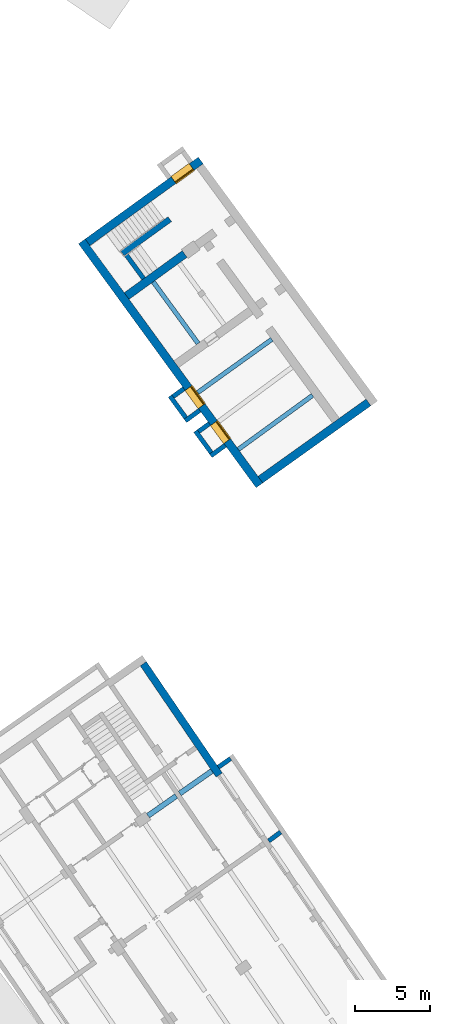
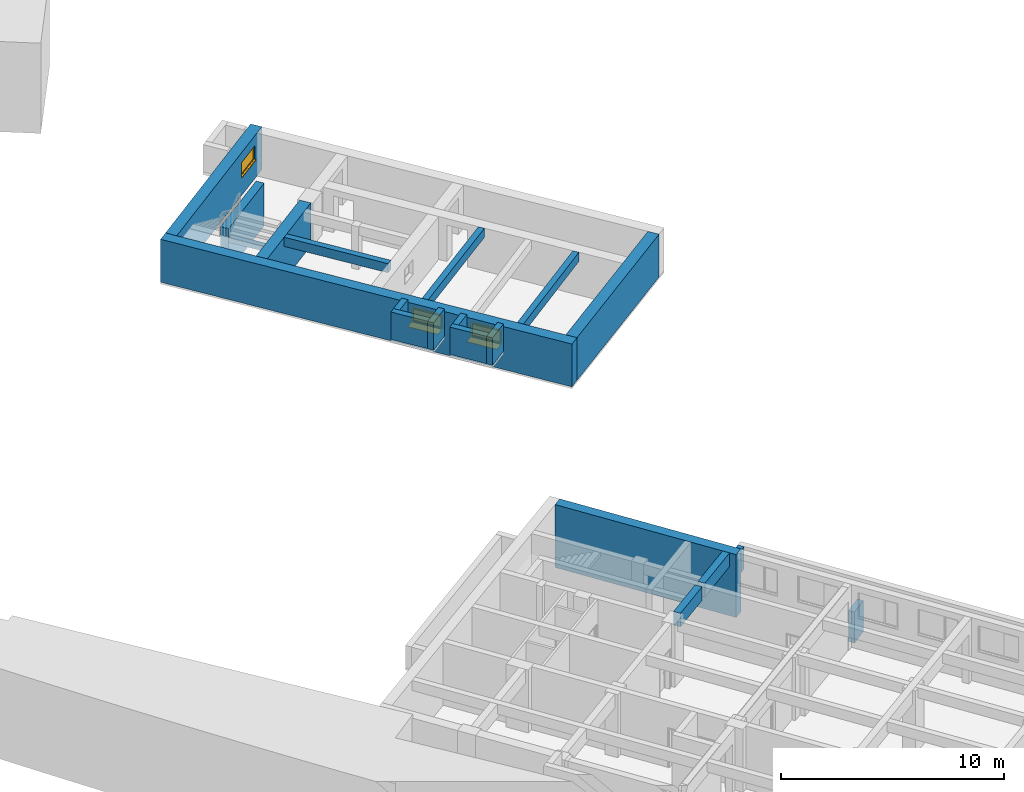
# One storey, part 75 of 112: 19 walls, 3 windows, 4 openings.
"""IFC2X3 building model written with IfcOpenShell, lengths in millimetres."""

from ifc_helpers import new_model, entity, si_unit, converted_unit, derived_unit, direction, frame, frame_2d, origin, place, context, subcontext, project, spatial, polyline, rectangle, outline, extrude, faceted_brep, source, transform, mapped, material, material_list, layer, layer_set, layer_usage, type_object, type_shapes, element, fill, save


model = new_model("IFC2X3")

# Units and contexts
model_context = context("Model", 3, precision=0.01, world=origin(), true_north=direction((6.123031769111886e-17, 1.0)))
body_context = subcontext(model_context, "Body", "Model", "MODEL_VIEW")
ifc_project = project(units=[si_unit("LENGTHUNIT", "METRE", prefix="MILLI"), si_unit("AREAUNIT", "SQUARE_METRE"), si_unit("VOLUMEUNIT", "CUBIC_METRE"), converted_unit("PLANEANGLEUNIT", "DEGREE", entity("IfcRatioMeasure", 0.017453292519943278), si_unit("PLANEANGLEUNIT", "RADIAN"), dimensions=[0, 0, 0, 0, 0, 0, 0]), si_unit("MASSUNIT", "GRAM", prefix="KILO"), derived_unit("MASSDENSITYUNIT", [(si_unit("MASSUNIT", "GRAM", prefix="KILO"), 1), (si_unit("LENGTHUNIT", "METRE"), -3)]), derived_unit("MOMENTOFINERTIAUNIT", [(si_unit("LENGTHUNIT", "METRE"), 4)]), si_unit("TIMEUNIT", "SECOND"), si_unit("FREQUENCYUNIT", "HERTZ"), si_unit("THERMODYNAMICTEMPERATUREUNIT", "DEGREE_CELSIUS"), derived_unit("THERMALTRANSMITTANCEUNIT", [(si_unit("MASSUNIT", "GRAM", prefix="KILO"), 1), (si_unit("THERMODYNAMICTEMPERATUREUNIT", "KELVIN"), -1), (si_unit("TIMEUNIT", "SECOND"), -3)]), derived_unit("THERMALCONDUCTANCEUNIT", [(si_unit("MASSUNIT", "GRAM", prefix="KILO"), 1), (si_unit("LENGTHUNIT", "METRE"), 1), (si_unit("THERMODYNAMICTEMPERATUREUNIT", "KELVIN"), -1), (si_unit("TIMEUNIT", "SECOND"), -3)]), derived_unit("VOLUMETRICFLOWRATEUNIT", [(si_unit("LENGTHUNIT", "METRE"), 3), (si_unit("TIMEUNIT", "SECOND"), -1)]), derived_unit("MASSFLOWRATEUNIT", [(si_unit("MASSUNIT", "GRAM", prefix="KILO"), 1), (si_unit("TIMEUNIT", "SECOND"), -1)]), derived_unit("ROTATIONALFREQUENCYUNIT", [(si_unit("TIMEUNIT", "SECOND"), -1)]), si_unit("ELECTRICCURRENTUNIT", "AMPERE"), si_unit("ELECTRICVOLTAGEUNIT", "VOLT"), si_unit("POWERUNIT", "WATT"), converted_unit("FORCEUNIT", "KIP", entity("IfcRatioMeasure", 2.088543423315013e-05), si_unit("FORCEUNIT", "NEWTON"), dimensions=[1, 1, -2, 0, 0, 0, 0]), si_unit("ILLUMINANCEUNIT", "LUX"), si_unit("LUMINOUSFLUXUNIT", "LUMEN"), si_unit("LUMINOUSINTENSITYUNIT", "CANDELA"), derived_unit("USERDEFINED", [(si_unit("MASSUNIT", "GRAM", prefix="KILO"), -1), (si_unit("LENGTHUNIT", "METRE"), -2), (si_unit("TIMEUNIT", "SECOND"), 3), (si_unit("LUMINOUSFLUXUNIT", "LUMEN"), 1)]), derived_unit("USERDEFINED", [(si_unit("MASSUNIT", "GRAM", prefix="KILO"), 1), (si_unit("LENGTHUNIT", "METRE"), 3), (si_unit("TIMEUNIT", "SECOND"), -3), (si_unit("ELECTRICCURRENTUNIT", "AMPERE"), -2)]), derived_unit("USERDEFINED", [(si_unit("LENGTHUNIT", "METRE"), 2), (si_unit("TIMEUNIT", "SECOND"), -2)]), derived_unit("SOUNDPOWERUNIT", [(si_unit("MASSUNIT", "GRAM", prefix="KILO"), 1), (si_unit("LENGTHUNIT", "METRE"), 2), (si_unit("TIMEUNIT", "SECOND"), -3)]), derived_unit("SOUNDPRESSUREUNIT", [(si_unit("MASSUNIT", "GRAM", prefix="KILO"), 1), (si_unit("LENGTHUNIT", "METRE"), -1), (si_unit("TIMEUNIT", "SECOND"), -2)]), derived_unit("LINEARVELOCITYUNIT", [(si_unit("LENGTHUNIT", "METRE"), 1), (si_unit("TIMEUNIT", "SECOND"), -1)]), si_unit("PRESSUREUNIT", "PASCAL"), derived_unit("USERDEFINED", [(si_unit("LENGTHUNIT", "METRE"), -2), (si_unit("MASSUNIT", "GRAM", prefix="KILO"), 1), (si_unit("TIMEUNIT", "SECOND"), -2)]), derived_unit("LINEARFORCEUNIT", [(si_unit("MASSUNIT", "GRAM", prefix="KILO"), 1), (si_unit("LENGTHUNIT", "METRE"), 1), (si_unit("TIMEUNIT", "SECOND"), -2), (si_unit("LENGTHUNIT", "METRE"), -1)]), derived_unit("PLANARFORCEUNIT", [(si_unit("MASSUNIT", "GRAM", prefix="KILO"), 1), (si_unit("LENGTHUNIT", "METRE"), 1), (si_unit("TIMEUNIT", "SECOND"), -2), (si_unit("LENGTHUNIT", "METRE"), -2)]), derived_unit("SPECIFICHEATCAPACITYUNIT", [(si_unit("LENGTHUNIT", "METRE"), 2), (si_unit("TIMEUNIT", "SECOND"), -2), (si_unit("THERMODYNAMICTEMPERATUREUNIT", "KELVIN"), -1)]), derived_unit("VAPORPERMEABILITYUNIT", [(si_unit("TIMEUNIT", "SECOND"), 1), (si_unit("LENGTHUNIT", "METRE"), -1)]), derived_unit("DYNAMICVISCOSITYUNIT", [(si_unit("MASSUNIT", "GRAM", prefix="KILO"), 1), (si_unit("LENGTHUNIT", "METRE"), -1), (si_unit("TIMEUNIT", "SECOND"), -1)]), derived_unit("THERMALEXPANSIONCOEFFICIENTUNIT", [(si_unit("THERMODYNAMICTEMPERATUREUNIT", "KELVIN"), -1)])], contexts=[model_context])

# Site, building, storey
site_placement = place(None, frame((0.0, 0.0, 0.0), z_axis=(0.0, 0.0, 1.0), x_axis=(0.8191520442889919, 0.5735764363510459, 0.0)))
site = spatial("IfcSite", under=ifc_project, at=site_placement, Name="Default", CompositionType="ELEMENT")
building_placement = place(site_placement, origin())
building = spatial("IfcBuilding", under=site, at=building_placement, CompositionType="ELEMENT")
storey_placement = place(building_placement, frame((0.0, 0.0, -3600.0)))
storey = spatial("IfcBuildingStorey", under=building, at=storey_placement, Name="0.UG -3.60", CompositionType="ELEMENT", Elevation=-3600.0000000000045)

# Walls
ifc_material_1 = material(Name="Analytical Wall Surface_CJC")
ifc_layer_1 = layer(ifc_material_1, 300.0)
ifc_layer_set_1 = layer_set([ifc_layer_1], Name="Basic Wall:Wand_Innen_30")
ifc_layer_usage_1 = layer_usage(ifc_layer_set_1, "AXIS2", "NEGATIVE", 150.0)
wall_type_1 = type_object("IfcWallType", Name="Basic Wall:Wand_Innen_30", PredefinedType="STANDARD", material=ifc_layer_set_1)
wall_1_placement = place(storey_placement, frame((-184671.19146846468, 180748.7992311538, 1800.0), z_axis=(0.0, 0.0, 1.0), x_axis=(-0.9998281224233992, -0.018539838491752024, 0.0)))
element("IfcWallStandardCase", 1, at=wall_1_placement, inside=storey, type_object=wall_type_1, material=ifc_layer_usage_1, Name="Basic Wall:Wand_Innen_30", ObjectType="Basic Wall:Wand_Innen_30", context=body_context, shape_type="SweptSolid", body=[
    extrude(rectangle(XDim=6149.947830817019, YDim=300.0000000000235, at=frame_2d((3074.9739154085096, 4.348521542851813e-12), x_axis=(-1.0, 0.0))), origin(), (0.0, 0.0, 1.0), 500.00000000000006),
])
wall_2_placement = place(storey_placement, frame((-184756.27205503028, 185390.48548292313, 1800.0), z_axis=(0.0, 0.0, 1.0), x_axis=(-0.9999261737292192, -0.012151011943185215, 0.0)))
element("IfcWallStandardCase", 2, at=wall_2_placement, inside=storey, type_object=wall_type_1, material=ifc_layer_usage_1, Name="Basic Wall:Wand_Innen_30", ObjectType="Basic Wall:Wand_Innen_30", context=body_context, shape_type="SweptSolid", body=[
    extrude(outline(polyline([(6152.021996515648, -150.0), (6150.105093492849, 150.0), (0.0, 150.0), (1.914711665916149, -150.0), (6152.021996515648, -150.0)])), origin(), (0.0, 0.0, 1.0), 500.00000000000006),
])
wall_3_placement = place(storey_placement, frame((-188956.20143930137, 187994.05491003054, 1800.0), z_axis=(0.0, 0.0, 1.0), x_axis=(-0.018532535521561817, 0.9998282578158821, 0.0)))
element("IfcWallStandardCase", 3, at=wall_3_placement, inside=storey, type_object=wall_type_1, material=ifc_layer_usage_1, Name="Basic Wall:Wand_Innen_30", ObjectType="Basic Wall:Wand_Innen_30", context=body_context, shape_type="SweptSolid", body=[
    extrude(outline(polyline([(5110.693503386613, -150.0), (5111.617669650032, 150.0), (2.0961074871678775, 150.0), (0.0, -150.0), (5110.693503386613, -150.0)])), origin(), (0.0, 0.0, 1.0), 500.00000000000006),
])
wall_4_placement = place(storey_placement, frame((-189454.39132615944, 193647.28500921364, 1550.0), z_axis=(0.0, 0.0, 1.0), x_axis=(-0.021304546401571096, 0.9997730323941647, 0.0)))
element("IfcWallStandardCase", 4, at=wall_4_placement, inside=storey, type_object=wall_type_1, material=ifc_layer_usage_1, Name="Basic Wall:Wand_Innen_30", ObjectType="Basic Wall:Wand_Innen_30", context=body_context, shape_type="SweptSolid", body=[
    extrude(outline(polyline([(2000.1886541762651, -150.0), (2001.9446061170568, 150.0), (1.755951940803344, 150.0), (0.0, -150.0), (2000.1886541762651, -150.0)])), origin(), (0.0, 0.0, 1.0), 250.00000000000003),
])

# Wall, opening
ifc_layer_2 = layer(ifc_material_1, 350.0)
ifc_layer_set_2 = layer_set([ifc_layer_2], Name="Basic Wall:Wand_Innen_35")
ifc_layer_usage_2 = layer_usage(ifc_layer_set_2, "AXIS2", "NEGATIVE", 175.0)
wall_type_2 = type_object("IfcWallType", Name="Basic Wall:Wand_Innen_35", PredefinedType="STANDARD", material=ifc_layer_set_2)
wall_5_placement = place(storey_placement, frame((-204629.72309100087, 163996.35891435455, 2700.0), z_axis=(0.0, 0.0, 1.0), x_axis=(-1.0, 0.0, 0.0)))
wall_5 = element("IfcWallStandardCase", 5, at=wall_5_placement, inside=storey, type_object=wall_type_2, material=ifc_layer_usage_2, Name="Basic Wall:Wand_Innen_35", ObjectType="Basic Wall:Wand_Innen_35", context=body_context, shape_type="SweptSolid", body=[
    extrude(outline(polyline([(0.0, -175.0), (5227.695812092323, -175.0), (5227.695812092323, 175.0), (4.455638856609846, 175.0), (0.0, -175.0)])), origin(), (0.0, 0.0, 1.0), 750.0),
])
opening_1_placement = place(storey_placement, frame((-204629.72309100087, 163996.35891435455, 2700.0), z_axis=(0.0, 0.0, 1.0), x_axis=(-1.0, 0.0, 0.0)))
element("IfcOpeningElement", 6, at=opening_1_placement, cuts=wall_5, Name="Basic Wall:Wand_Innen_35:1", ObjectType="Opening", context=body_context, shape_type="SweptSolid", body=[
    extrude(rectangle(XDim=750.0, YDim=350.02836086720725, at=frame_2d((0.0, -1.7323031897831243e-11), x_axis=(1.0, 0.0))), frame((2929.5745665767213, 0.0, 375.0), z_axis=(-0.9999189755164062, 0.01272958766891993, 0.0), x_axis=(0.0, 0.0, 1.0)), (0.0, -0.01272958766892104, 0.9999189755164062), 300.07293385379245),
])

# Walls
ifc_layer_3 = layer(ifc_material_1, 400.0)
ifc_layer_set_3 = layer_set([ifc_layer_3], Name="Basic Wall:Wand_Innen_40")
ifc_layer_usage_3 = layer_usage(ifc_layer_set_3, "AXIS2", "POSITIVE", -200.0)
wall_type_3 = type_object("IfcWallType", Name="Basic Wall:Wand_Innen_40", PredefinedType="STANDARD", material=ifc_layer_set_3)
wall_6_placement = place(storey_placement, frame((-189652.43927989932, 195845.5194992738, -50.0), z_axis=(0.0, 0.0, 1.0), x_axis=(0.9998806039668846, 0.015452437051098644, 0.0)))
element("IfcWallStandardCase", 7, at=wall_6_placement, inside=storey, type_object=wall_type_3, material=ifc_layer_usage_3, Name="Basic Wall:Wand_Innen_40", ObjectType="Basic Wall:Wand_Innen_40", context=body_context, shape_type="SweptSolid", body=[
    extrude(outline(polyline([(3917.92117840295, -200.0), (3917.9211784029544, 200.0), (0.0, 200.0), (2.341269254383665, -200.0), (3917.92117840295, -200.0)])), origin(), (0.0, 0.0, 1.0), 2350.0000000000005),
])
ifc_layer_4 = layer(ifc_material_1, 500.00000000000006)
ifc_layer_set_4 = layer_set([ifc_layer_4], Name="Basic Wall:Wand_Aussen_50")
ifc_layer_usage_4 = layer_usage(ifc_layer_set_4, "AXIS2", "NEGATIVE", 250.00000000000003)
wall_type_4 = type_object("IfcWallType", Name="Basic Wall:Wand_Aussen_50", PredefinedType="STANDARD", material=ifc_layer_set_4)
wall_7_placement = place(storey_placement, frame((-204273.36350875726, 172524.541255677, 0.0), z_axis=(0.0, 0.0, 1.0), x_axis=(-0.012729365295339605, -0.9999189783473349, 0.0)))
element("IfcWallStandardCase", 8, at=wall_7_placement, inside=storey, type_object=wall_type_4, material=ifc_layer_usage_4, Name="Basic Wall:Wand_Aussen_50", ObjectType="Basic Wall:Wand_Aussen_50", context=body_context, shape_type="SweptSolid", body=[
    extrude(outline(polyline([(9030.349084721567, -250.0), (9030.34908472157, 250.0), (0.0, 250.0), (6.365198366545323, -250.0), (6481.889262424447, -250.0), (6781.914164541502, -250.0), (9030.349084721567, -250.0)])), origin(), (0.0, 0.0, 1.0), 3450.000000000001),
])
ifc_layer_5 = layer(ifc_material_1, 550.0)
ifc_layer_set_5 = layer_set([ifc_layer_5], Name="Basic Wall:Wand_Innen_55")
ifc_layer_usage_5 = layer_usage(ifc_layer_set_5, "AXIS2", "POSITIVE", -275.0)
wall_type_5 = type_object("IfcWallType", Name="Basic Wall:Wand_Innen_55", PredefinedType="STANDARD", material=ifc_layer_set_5)
wall_8_placement = place(storey_placement, frame((-186255.22330062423, 193422.57108272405, -50.0), z_axis=(0.0, 0.0, 1.0), x_axis=(-0.999880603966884, -0.015452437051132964, 0.0)))
element("IfcWallStandardCase", 9, at=wall_8_placement, inside=storey, type_object=wall_type_5, material=ifc_layer_usage_5, Name="Basic Wall:Wand_Innen_55", ObjectType="Basic Wall:Wand_Innen_55", context=body_context, shape_type="SweptSolid", body=[
    extrude(outline(polyline([(4802.029991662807, -275.0), (4800.331669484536, 275.0), (0.0, 275.0), (0.0, -275.0), (4802.029991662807, -275.0)])), origin(), (0.0, 0.0, 1.0), 2350.0000000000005),
])
ifc_layer_6 = layer(ifc_material_1, 300.0)
ifc_layer_set_6 = layer_set([ifc_layer_6], Name="Basic Wall:Wand_Aussen_30")
ifc_layer_usage_6 = layer_usage(ifc_layer_set_6, "AXIS2", "POSITIVE", -150.0)
wall_type_6 = type_object("IfcWallType", Name="Basic Wall:Wand_Aussen_30", PredefinedType="STANDARD", material=ifc_layer_set_6)
wall_9_placement = place(storey_placement, frame((-203130.36069157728, 163961.87763083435, 1600.0), z_axis=(0.0, 0.0, 1.0), x_axis=(-1.0, 0.0, 0.0)))
element("IfcWallStandardCase", 10, at=wall_9_placement, inside=storey, type_object=wall_type_6, material=ifc_layer_usage_6, Name="Basic Wall:Wand_Aussen_30", ObjectType="Basic Wall:Wand_Aussen_30", context=body_context, shape_type="SweptSolid", body=[
    extrude(outline(polyline([(1000.0791056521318, -150.0), (1003.8982246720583, 150.0), (3.8191857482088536, 150.0), (0.0, -150.0), (1000.0791056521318, -150.0)])), origin(), (0.0, 0.0, 1.0), 1250.0),
])
wall_10_placement = place(storey_placement, frame((-203201.68663294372, 158002.9582183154, 0.0), z_axis=(0.0, 0.0, 1.0), x_axis=(-0.9995427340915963, -0.03023776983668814, 0.0)))
element("IfcWallStandardCase", 11, at=wall_10_placement, inside=storey, type_object=wall_type_6, material=ifc_layer_usage_6, Name="Basic Wall:Wand_Aussen_30", ObjectType="Basic Wall:Wand_Aussen_30", context=body_context, shape_type="SweptSolid", body=[
    extrude(outline(polyline([(1000.9221892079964, -150.0), (1013.8218368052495, 150.0), (12.899634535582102, 150.0), (0.0, -150.0), (1000.9221892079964, -150.0)])), origin(), (0.0, 0.0, 1.0), 1700.0),
])
ifc_layer_usage_7 = layer_usage(ifc_layer_set_6, "AXIS2", "NEGATIVE", 150.0)
wall_11_placement = place(storey_placement, frame((-191383.678973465, 181362.93338895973, 950.0), z_axis=(0.0, 0.0, 1.0), x_axis=(-0.9998281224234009, -0.018539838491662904, 0.0)))
element("IfcWallStandardCase", 12, at=wall_11_placement, inside=storey, type_object=wall_type_6, material=ifc_layer_usage_7, Name="Basic Wall:Wand_Aussen_30", ObjectType="Basic Wall:Wand_Aussen_30", context=body_context, shape_type="SweptSolid", body=[
    extrude(rectangle(XDim=1199.9999999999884, YDim=300.0000000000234, at=frame_2d((599.9999999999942, -9.521272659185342e-13), x_axis=(-1.0, 0.0))), origin(), (0.0, 0.0, 1.0), 1500.0),
])
wall_12_placement = place(storey_placement, frame((-192436.2794777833, 181493.44077690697, 950.0), z_axis=(0.0, 0.0, 1.0), x_axis=(-0.018539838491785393, 0.9998281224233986, 0.0)))
element("IfcWallStandardCase", 13, at=wall_12_placement, inside=storey, type_object=wall_type_6, material=ifc_layer_usage_7, Name="Basic Wall:Wand_Aussen_30", ObjectType="Basic Wall:Wand_Aussen_30", context=body_context, shape_type="SweptSolid", body=[
    extrude(outline(polyline([(1800.212422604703, -150.0), (1800.0, 150.0), (0.0, 150.0), (0.0, -150.0), (1500.2123473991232, -150.0), (1800.212422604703, -150.0)])), origin(), (0.0, 0.0, 1.0), 1500.0),
])
wall_13_placement = place(storey_placement, frame((-192317.00612214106, 183146.1484588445, 950.0), z_axis=(0.0, 0.0, 1.0), x_axis=(0.9998147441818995, 0.019247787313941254, 0.0)))
element("IfcWallStandardCase", 14, at=wall_13_placement, inside=storey, type_object=wall_type_6, material=ifc_layer_usage_7, Name="Basic Wall:Wand_Aussen_30", ObjectType="Basic Wall:Wand_Aussen_30", context=body_context, shape_type="SweptSolid", body=[
    extrude(outline(polyline([(900.000225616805, -150.0), (900.2126482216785, 150.0), (0.2124226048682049, 150.0), (0.0, -150.0), (900.000225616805, -150.0)])), origin(), (0.0, 0.0, 1.0), 1500.0),
])
wall_14_placement = place(storey_placement, frame((-191437.33831416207, 184262.4370259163, 950.0), z_axis=(0.0, 0.0, 1.0), x_axis=(-0.9998147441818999, -0.019247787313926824, 0.0)))
element("IfcWallStandardCase", 15, at=wall_14_placement, inside=storey, type_object=wall_type_6, material=ifc_layer_usage_7, Name="Basic Wall:Wand_Aussen_30", ObjectType="Basic Wall:Wand_Aussen_30", context=body_context, shape_type="SweptSolid", body=[
    extrude(outline(polyline([(1200.0003008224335, -150.0), (1200.2127234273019, 150.0), (0.21242260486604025, 150.0), (0.0, -150.0), (900.0002256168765, -150.0), (1200.0003008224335, -150.0)])), origin(), (0.0, 0.0, 1.0), 1500.0),
])
wall_15_placement = place(storey_placement, frame((-192490.0292576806, 184392.0928627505, 950.0), z_axis=(0.0, 0.0, 1.0), x_axis=(-0.018539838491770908, 0.9998281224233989, 0.0)))
element("IfcWallStandardCase", 16, at=wall_15_placement, inside=storey, type_object=wall_type_6, material=ifc_layer_usage_7, Name="Basic Wall:Wand_Aussen_30", ObjectType="Basic Wall:Wand_Aussen_30", context=body_context, shape_type="SweptSolid", body=[
    extrude(outline(polyline([(1800.8496152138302, -150.0), (1800.8496152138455, 150.0), (0.0, 150.0), (0.21242260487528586, -150.0), (1500.8496152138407, -150.0), (1800.8496152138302, -150.0)])), origin(), (0.0, 0.0, 1.0), 1500.0),
])
wall_16_placement = place(storey_placement, frame((-192370.6615245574, 186045.43970970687, 950.0), z_axis=(0.0, 0.0, 1.0), x_axis=(0.9998281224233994, 0.018539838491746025, 0.0)))
element("IfcWallStandardCase", 17, at=wall_16_placement, inside=storey, type_object=wall_type_6, material=ifc_layer_usage_7, Name="Basic Wall:Wand_Aussen_30", ObjectType="Basic Wall:Wand_Aussen_30", context=body_context, shape_type="SweptSolid", body=[
    extrude(rectangle(XDim=900.0000000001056, YDim=300.0000000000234, at=frame_2d((450.0000000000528, 4.149569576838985e-12), x_axis=(-1.0, 0.0))), origin(), (0.0, 0.0, 1.0), 1500.0),
])

# Wall, openings, windows
ifc_layer_7 = layer(ifc_material_1, 550.0)
ifc_layer_set_7 = layer_set([ifc_layer_7], Name="Basic Wall:Wand_Aussen_55")
ifc_layer_usage_8 = layer_usage(ifc_layer_set_7, "AXIS2", "NEGATIVE", 275.0)
wall_type_7 = type_object("IfcWallType", Name="Basic Wall:Wand_Aussen_55", PredefinedType="STANDARD", material=ifc_layer_set_7)
wall_17_placement = place(storey_placement, frame((-191043.44477752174, 177847.49190638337, -50.0), z_axis=(0.0, 0.0, 1.0), x_axis=(-0.018539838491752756, 0.9998281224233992, 0.0)))
wall_17 = element("IfcWallStandardCase", 18, at=wall_17_placement, inside=storey, type_object=wall_type_7, material=ifc_layer_usage_8, Name="Basic Wall:Wand_Aussen_55", ObjectType="Basic Wall:Wand_Aussen_55", context=body_context, shape_type="SweptSolid", body=[
    extrude(outline(polyline([(20223.47713909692, -275.0), (20225.175461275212, 275.0), (5.055850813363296, 275.0), (0.0, -275.0), (550.0232373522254, -275.0), (9571.14514405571, -275.0), (10121.158597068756, -275.0), (15223.453301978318, -275.0), (15773.455924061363, -275.0), (19673.474517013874, -275.0), (20223.47713909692, -275.0)])), origin(), (0.0, 0.0, 1.0), 2350.000000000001),
])
opening_2_placement = place(wall_17_placement, frame((8071.145144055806, 275.0, 1000.0)))
opening_2 = element("IfcOpeningElement", 19, at=opening_2_placement, cuts=wall_17, Name="Windows_Sgl_Plain:150x80:1", ObjectType="Opening", context=body_context, shape_type="SweptSolid", body=[
    extrude(rectangle(XDim=800.0000000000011, YDim=1500.0000000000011, at=frame_2d((400.00000000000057, 750.0000000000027), x_axis=(-1.0, 0.0))), frame((0.0, 0.0, 0.0), z_axis=(0.0, -1.0, 0.0), x_axis=(0.0, 0.0, 1.0)), (0.0, 0.0, 1.0), 549.9999999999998),
])
opening_3_placement = place(wall_17_placement, frame((5171.145144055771, 275.0, 1000.0)))
opening_3 = element("IfcOpeningElement", 20, at=opening_3_placement, cuts=wall_17, Name="Windows_Sgl_Plain:150x80:1", ObjectType="Opening", context=body_context, shape_type="SweptSolid", body=[
    extrude(rectangle(XDim=800.0000000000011, YDim=1500.0000000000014, at=frame_2d((400.00000000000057, 750.00000000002), x_axis=(-1.0, 0.0))), frame((0.0, 0.0, 0.0), z_axis=(0.0, -1.0, 0.0), x_axis=(0.0, 0.0, 1.0)), (0.0, 0.0, 1.0), 549.9999999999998),
])
ifc_material_2 = material(Name="Window Frame")
ifc_material_3 = material(Name="Glass")
ifc_material_list = material_list([ifc_material_2, ifc_material_3])
window_style = type_object("IfcWindowStyle", Name="Windows_Sgl_Plain:150x80", ConstructionType="NOTDEFINED", OperationType="SINGLE_PANEL", ParameterTakesPrecedence=False, Sizeable=False, material=ifc_material_list)
shared_shape = source(origin(), body_context, "Body", "Brep", [
    faceted_brep([(-25.0, -25.0, 0.0), (-25.0, 0.0, 0.0), (0.0, 0.0, 0.0), (0.0, 417.0, 0.0), (1500.0, 417.0, 0.0), (1500.0, 0.0, 0.0), (1525.0, 0.0, 0.0), (1525.0, -25.0, 0.0), (-25.0, -25.0, 25.0), (1525.0, -25.0, 25.0), (1525.0, 0.0, 25.0), (1500.0, 0.0, 25.0), (1500.0, 417.0, 25.0), (0.0, 417.0, 25.0), (0.0, 0.0, 25.0), (-25.0, 0.0, 25.0)], [[[0, 1, 2, 3, 4, 5, 6, 7]], [[8, 9, 10, 11, 12, 13, 14, 15]], [[1, 0, 8, 15]], [[2, 1, 15, 14]], [[3, 2, 14, 13]], [[4, 3, 13, 12]], [[5, 4, 12, 11]], [[6, 5, 11, 10]], [[7, 6, 10, 9]], [[0, 7, 9, 8]]]),
    faceted_brep([(0.0, 417.0, 0.0), (1500.0, 417.0, 0.0), (1500.0, 417.0, 800.0), (0.0, 417.0, 800.0), (60.0, 417.0, 740.0), (1440.0, 417.0, 740.0), (1440.0, 417.0, 75.0), (60.0, 417.0, 75.0), (0.0, 500.0, 800.0), (0.0, 500.0, 51.0), (0.0, 515.0, 49.687670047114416), (0.0, 515.0, 44.74496761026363), (0.0, 587.5000000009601, 33.80888466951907), (0.0, 587.5000000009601, 0.0), (1500.0, 500.0, 800.0), (1500.0, 500.0, 51.0), (40.0, 500.0, 760.0), (40.0, 500.0, 63.0), (1460.0, 500.0, 63.0), (1460.0, 500.0, 760.0), (40.0, 435.0, 760.0), (40.0, 435.0, 63.0), (60.0, 435.0, 740.0), (60.0, 435.0, 75.0), (1440.0, 435.0, 75.0), (1440.0, 435.0, 740.0), (1460.0, 435.0, 760.0), (1460.0, 435.0, 63.0), (1500.0, 587.5000000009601, 0.0), (1500.0, 587.50000000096, 33.80888466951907), (1500.0, 515.0, 44.74496761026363), (1500.0, 515.0, 49.687670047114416)], [[[0, 1, 2, 3], [4, 5, 6, 7]], [[0, 3, 8, 9, 10, 11, 12, 13]], [[9, 8, 14, 15], [16, 17, 18, 19]], [[17, 16, 20, 21]], [[22, 23, 24, 25], [20, 26, 27, 21]], [[22, 4, 7, 23]], [[3, 2, 14, 8]], [[16, 19, 26, 20]], [[5, 4, 22, 25]], [[15, 14, 2, 1, 28, 29, 30, 31]], [[19, 18, 27, 26]], [[5, 25, 24, 6]], [[28, 1, 0, 13]], [[29, 28, 13, 12]], [[30, 29, 12, 11]], [[31, 30, 11, 10]], [[15, 31, 10, 9]], [[21, 27, 18, 17]], [[7, 6, 24, 23]]], outer=[[True, False], [True], [True, False], [True], [False, True], [True], [True], [True], [True], [True], [True], [True], [True], [True], [True], [True], [True], [True], [True]]),
    faceted_brep([(70.0, 464.0, 93.0), (1430.0, 464.0, 93.0), (1430.0, 464.0, 730.0), (70.0, 464.0, 730.0), (70.0, 488.0, 93.0), (70.0, 488.0, 730.0), (1430.0, 488.0, 730.0), (1430.0, 488.0, 93.0)], [[[0, 1, 2, 3]], [[4, 5, 6, 7]], [[1, 0, 4, 7]], [[2, 1, 7, 6]], [[3, 2, 6, 5]], [[0, 3, 5, 4]]]),
    faceted_brep([(30.0, 500.0, 770.0), (30.0, 505.77350269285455, 770.0), (30.0, 505.77350269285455, 53.0), (30.0, 500.0, 53.0), (40.0, 435.0, 760.0), (40.0, 500.0, 760.0), (40.0, 500.0, 63.0), (40.0, 435.0, 63.0), (80.0, 449.49289985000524, 720.0), (69.85196227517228, 435.0, 730.1480377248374), (69.85196227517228, 435.0, 92.85196227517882), (80.0, 449.4928998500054, 103.0), (80.0, 464.0, 720.0), (80.0, 464.0, 103.0), (70.0, 488.0, 730.0), (70.0, 464.0, 730.0), (70.0, 464.0, 93.0), (70.0, 488.0, 93.0), (80.0, 505.7735026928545, 720.0), (80.0, 488.0, 720.0), (80.0, 488.0, 103.0), (80.0, 505.7735026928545, 103.0), (62.554245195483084, 511.54700538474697, 737.4457548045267), (62.55424519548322, 511.5470053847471, 85.55424519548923), (40.784609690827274, 511.54700538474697, 759.2153903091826), (40.78460969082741, 511.5470053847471, 63.78460969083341), (1470.0, 505.77350269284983, 53.0), (1470.0, 500.0, 53.0), (1460.0, 500.0, 63.0), (1460.0, 435.0, 63.0), (1430.1480377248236, 435.0, 92.85196227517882), (1420.0, 449.492899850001, 103.0), (1420.0, 464.0, 103.0), (1430.0, 464.0, 93.0), (1430.0, 488.0, 93.0), (1420.0, 488.0, 103.0), (1420.0, 505.7735026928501, 103.0), (1437.4457548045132, 511.5470053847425, 85.55424519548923), (1459.215390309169, 511.5470053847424, 63.78460969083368), (1470.0, 505.77350269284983, 770.0), (1470.0, 500.0, 770.0), (1460.0, 500.0, 760.0), (1460.0, 435.0, 760.0), (1430.1480377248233, 435.0, 730.1480377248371), (1420.0, 449.492899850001, 720.0), (1420.0, 464.0, 720.0), (1430.0, 464.0, 730.0), (1430.0, 488.0, 730.0), (1420.0, 488.0, 720.0), (1420.0, 505.7735026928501, 720.0), (1437.4457548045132, 511.5470053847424, 737.4457548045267), (1459.215390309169, 511.5470053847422, 759.2153903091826)], [[[0, 1, 2, 3]], [[4, 5, 6, 7]], [[8, 9, 10, 11]], [[12, 8, 11, 13]], [[14, 15, 16, 17]], [[18, 19, 20, 21]], [[22, 18, 21, 23]], [[1, 24, 25, 2]], [[3, 2, 26, 27]], [[7, 6, 28, 29]], [[11, 10, 30, 31]], [[13, 11, 31, 32]], [[17, 16, 33, 34]], [[21, 20, 35, 36]], [[23, 21, 36, 37]], [[2, 25, 38, 26]], [[27, 26, 39, 40]], [[29, 28, 41, 42]], [[31, 30, 43, 44]], [[32, 31, 44, 45]], [[34, 33, 46, 47]], [[36, 35, 48, 49]], [[37, 36, 49, 50]], [[26, 38, 51, 39]], [[40, 39, 1, 0]], [[3, 27, 40, 0], [5, 41, 28, 6]], [[42, 41, 5, 4]], [[7, 29, 42, 4], [9, 43, 30, 10]], [[44, 43, 9, 8]], [[45, 44, 8, 12]], [[13, 32, 45, 12], [15, 46, 33, 16]], [[47, 46, 15, 14]], [[17, 34, 47, 14], [19, 48, 35, 20]], [[49, 48, 19, 18]], [[50, 49, 18, 22]], [[23, 37, 50, 22], [24, 51, 38, 25]], [[39, 51, 24, 1]]], outer=[[True], [True], [True], [True], [True], [True], [True], [True], [True], [True], [True], [True], [True], [True], [True], [True], [True], [True], [True], [True], [True], [True], [True], [True], [True], [True, False], [True], [True, False], [True], [True], [False, True], [True], [True, False], [True], [True], [False, True], [True]]),
])
type_shapes(window_style, [shared_shape])
window_1_placement = place(opening_2_placement, frame((0.0, 0.0, 0.0), z_axis=(0.0, 0.0, 1.0), x_axis=(-1.0, 0.0, 0.0)))
window_1 = element("IfcWindow", 21, at=window_1_placement, inside=storey, type_object=window_style, material=ifc_material_list, Name="Windows_Sgl_Plain:150x80", ObjectType="Windows_Sgl_Plain:150x80", OverallHeight=800.0000000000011, OverallWidth=1499.9999999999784, context=body_context, shape_type="MappedRepresentation", body=[
    mapped(shared_shape, transform((0.0, 0.0, 0.0), scale=1.0)),
])
fill(opening_2, window_1)
window_2_placement = place(opening_3_placement, frame((0.0, 0.0, 0.0), z_axis=(0.0, 0.0, 1.0), x_axis=(-1.0, 0.0, 0.0)))
window_2 = element("IfcWindow", 22, at=window_2_placement, inside=storey, type_object=window_style, material=ifc_material_list, Name="Windows_Sgl_Plain:150x80", ObjectType="Windows_Sgl_Plain:150x80", OverallHeight=800.0000000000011, OverallWidth=1500.0000000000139, context=body_context, shape_type="MappedRepresentation", body=[
    mapped(shared_shape, transform((0.0, 0.0, 0.0), scale=1.0)),
])
fill(opening_3, window_2)

# Wall, opening, window
wall_18_placement = place(storey_placement, frame((-191139.18262356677, 197797.6243727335, -50.0), z_axis=(0.0, 0.0, 1.0), x_axis=(0.9998806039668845, 0.015452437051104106, 0.0)))
wall_18 = element("IfcWallStandardCase", 23, at=wall_18_placement, inside=storey, type_object=wall_type_7, material=ifc_layer_usage_8, Name="Basic Wall:Wand_Aussen_55", ObjectType="Basic Wall:Wand_Aussen_55", context=body_context, shape_type="SweptSolid", body=[
    extrude(outline(polyline([(9362.915131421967, -275.0), (9358.611367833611, 275.0), (0.0, 275.0), (1.6983221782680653, -275.0), (8812.898293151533, -275.0), (9362.915131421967, -275.0)])), origin(), (0.0, 0.0, 1.0), 2350.0000000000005),
])
opening_4_placement = place(wall_18_placement, frame((8612.147148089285, 275.0, 1000.0)))
opening_4 = element("IfcOpeningElement", 24, at=opening_4_placement, cuts=wall_18, Name="Windows_Sgl_Plain:150x80:1", ObjectType="Opening", context=body_context, shape_type="SweptSolid", body=[
    extrude(rectangle(XDim=800.0000000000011, YDim=1500.0000000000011, at=frame_2d((400.00000000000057, 750.0000000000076), x_axis=(-1.0, 0.0))), frame((0.0, 0.0, 0.0), z_axis=(0.0, -1.0, 0.0), x_axis=(0.0, 0.0, 1.0)), (0.0, 0.0, 1.0), 550.0),
])
window_3_placement = place(opening_4_placement, frame((0.0, 0.0, 0.0), z_axis=(0.0, 0.0, 1.0), x_axis=(-1.0, 0.0, 0.0)))
window_3 = element("IfcWindow", 25, at=window_3_placement, inside=storey, type_object=window_style, material=ifc_material_list, Name="Windows_Sgl_Plain:150x80", ObjectType="Windows_Sgl_Plain:150x80", OverallHeight=800.0000000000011, OverallWidth=1499.9999999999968, context=body_context, shape_type="MappedRepresentation", body=[
    mapped(shared_shape, transform((0.0, 0.0, 0.0), scale=1.0)),
])
fill(opening_4, window_3)

# Wall
wall_19_placement = place(storey_placement, frame((-181866.46472000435, 178210.82721955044, -50.0), z_axis=(0.0, 0.0, 1.0), x_axis=(-0.9999563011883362, -0.009348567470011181, 0.0)))
element("IfcWallStandardCase", 26, at=wall_19_placement, inside=storey, type_object=wall_type_7, material=ifc_layer_usage_8, Name="Basic Wall:Wand_Aussen_55", ObjectType="Basic Wall:Wand_Aussen_55", context=body_context, shape_type="SweptSolid", body=[
    extrude(outline(polyline([(8910.043168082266, -275.0), (8904.987317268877, 275.0), (0.0, 275.0), (7.661562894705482, -275.0), (2209.8301202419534, -275.0), (2759.8533206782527, -275.0), (8910.043168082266, -275.0)])), origin(), (0.0, 0.0, 1.0), 2350.0000000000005),
])

save(model, "model.ifc")
